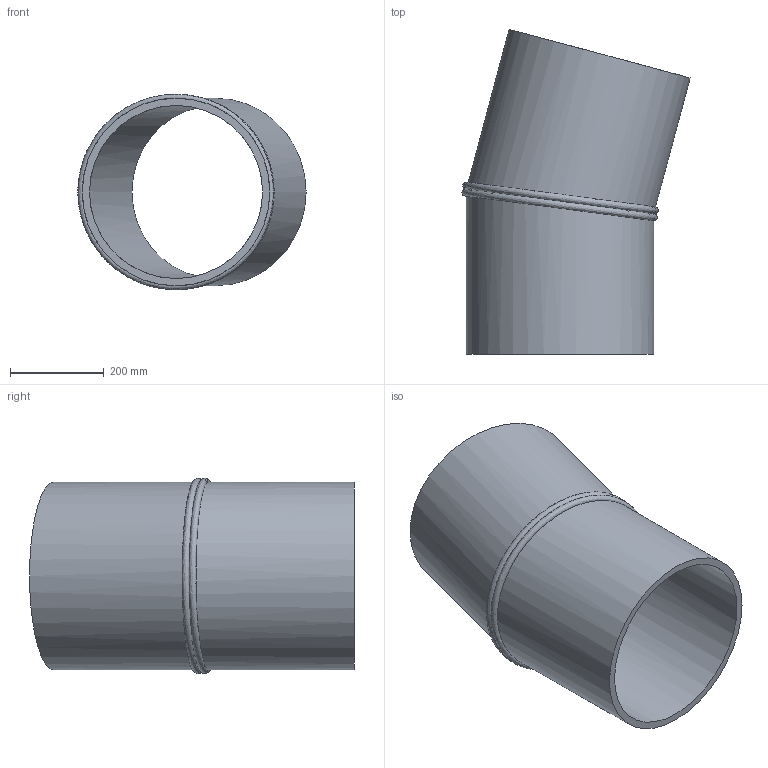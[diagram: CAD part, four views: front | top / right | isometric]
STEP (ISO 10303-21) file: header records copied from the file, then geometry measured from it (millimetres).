
FILE_DESCRIPTION(/* description */ ('Unknown'),/* implementation_level */ '2;1');
FILE_NAME(/* name */ 'Curva 15° a settore DE400 SDR26',/* time_stamp */ '2022-07-25T11:00:44+02:00',/* author */ ('Unknown'),/* organization */ ('Unknown'),/* preprocessor_version */ 'ST-DEVELOPER v18.102',/* originating_system */ 'Solid Edge',/* authorisation */ 'Unknown');
FILE_SCHEMA (('AUTOMOTIVE_DESIGN {1 0 10303 214 3 1 1}'));
Length unit declared in the file: millimetre
Products named in the file (2): Curva 15° a settore DE400 SDR26; Tubo x Gomito 15° DE400 SDR26
Assembly tree (2 placements, depth 2):
  Curva 15° a settore DE400 SDR26
    Tubo x Gomito 15° DE400 SDR26  x2
Bounding box: 487.08 x 693.31 x 416.93 mm (x, y, z)
Volume: 12332191.6 mm3; surface area: 1680602.6 mm2
Topology: 2 solids, 2 shells, 10 faces, 20 edges, 14 vertices
Faces by surface type: cylinder 4, plane 4, bspline 2
Full cylindrical faces by diameter (mm): 369.4 x2, 400 x2
Entity records: 767 total; most frequent: CARTESIAN_POINT 630, DIRECTION 20, ORIENTED_EDGE 10, EDGE_LOOP 10, FACE_BOUND 10, AXIS2_PLACEMENT_3D 10, EDGE_CURVE 5, VERTEX_POINT 5
